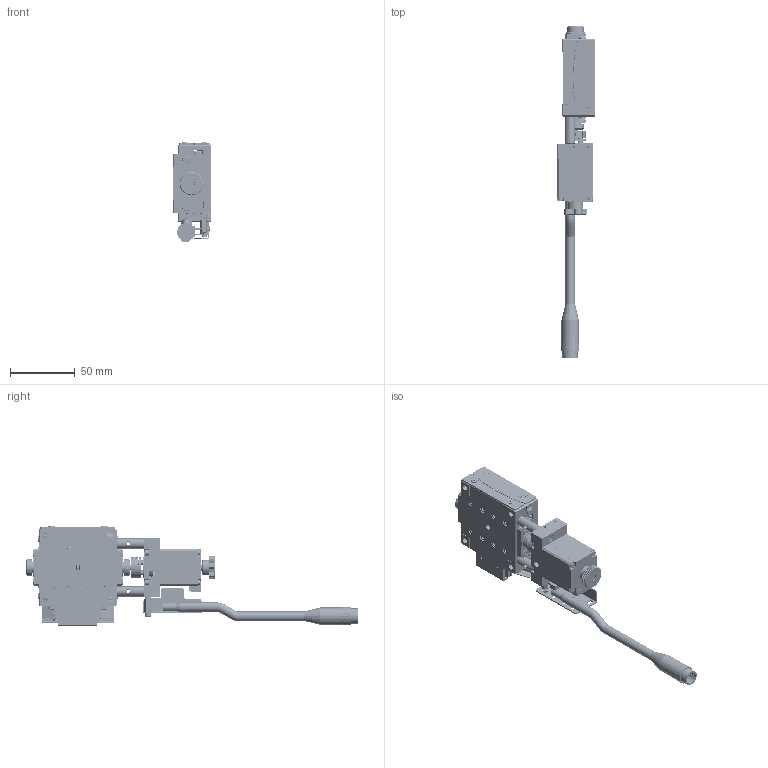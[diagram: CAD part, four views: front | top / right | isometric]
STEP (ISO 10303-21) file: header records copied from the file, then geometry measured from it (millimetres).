
FILE_DESCRIPTION (( 'STEP AP203' ), '1' );
FILE_NAME ('PT-GD06100-LC.STEP', '2026-03-30T08:28:01', ( '' ), ( '' ), 'SwSTEP 2.0', 'SolidWorks 2025', '' );
FILE_SCHEMA (( 'CONFIG_CONTROL_DESIGN' ));
Length unit declared in the file: millimetre
Products named in the file (50): PCBA-SHXL 2405 2.0.STEP_默认<按加工>; DGB-6075-15A-II.STEP_默认<按加工>; __________M2.5_M2.5__10+4SUS304.STEP_默认<按加工>; __________M2.5(__2.7__4.2__9.6)________.STEP_默认<按加工>; ________________M2.5_M2.5__12________12.9__.STEP_默认<按加工>; ____1__0.75-D10.STEP_默认<按加工>; CNT13-Z12Z-001-0.31M.STEP_默认<按加工>; M2.5_______M2.5__5__0.3SUS304____.STEP_默认<按加工>; ____CM__________M2_M2__4-______4.0__0.71________.STEP_默认<按加工>; ____292__0.75.STEP_默认<按加工>; SL18-9.5-5.STEP_默认<按加工>; A-G60L____________.STEP; __________________M3_M3__4________12.9__.STEP_默认<按加工>; PKP523N12B_________________10__10.STEP_默认<按加工>; __________________M3_M3__3________12.9__.STEP_默认<按加工>; DGB-6075-08A.STEP_默认<按加工>; HGW6050-03A.STEP_默认<按加工>; __________________M2.5_M2.5__3________12.9__.STEP_默认<按加工>; DGB-6075-06B.STEP_默认<按加工>; M5X0.5-13L5.STEP_默认<按加工>; ________________M2_M2__8________12.9__.STEP_默认<按加工>; 60-113.5.STEP_默认<按加工>; CS-16__17-4__5.STEP_默认<按加工>; DGB-6075-21B.STEP_默认<按加工>; HGW60100-01A.STEP_默认<按加工>; PCBA-SA2-V1.0.STEP_默认<按加工>; DGW60100-03B.STEP_默认<按加工>; ZCZ8-21.STEP_默认<按加工>; DGW60100-DL.STEP; PT-GD06100-LC; M2.5_______M2.5__5__0.5SUS304____.STEP_默认<按加工>; HGW60100-02A.STEP_默认<按加工>; ________________M2_M2__4________12.9__.STEP_默认<按加工>; A-______________DGW60100-L______6__.STEP; ________________M2.5_M2.5__10________12.9__.STEP_默认<按加工>; DGB-6075-LPD-NC______-L.STEP; ________________M2.5_M2.5__5________12.9__.STEP_默认<按加工>; ________________M3_M3__7________12.9__.STEP_默认<按加工>; DGB-60100-05B.STEP_默认<按加工>; DGW60100-02A.STEP_默认<按加工>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
Assembly tree (129 placements, depth 4):
  PT-GD06100-LC
    DGW60100-DL.STEP
      A-DGW60100-L__________.STEP
        HGW60100-01A.STEP_默认<按加工>
        HGW60100-02A.STEP_默认<按加工>
        __________________M3_M3__4________12.9__.STEP_默认<按加工>  x4
        ________________M2.5_M2.5__12________12.9__.STEP_默认<按加工>  x4
        ________________M2.5_M2.5__10________12.9__.STEP_默认<按加工>  x12
        M2.5_______M2.5__5__0.5SUS304____.STEP_默认<按加工>  x8
        60-113.5.STEP_默认<按加工>  x4
        ____CM__________M2_M2__3-______5.0____1.2SUS304____.STEP_默认<按加工>  x8
        ____292__0.75.STEP_默认<按加工>
        ________________M2.5_M2.5__6________12.9__.STEP_默认<按加工>  x4
        ______VR2-___________VR2x10Z-113.5.STEP_默认<按加工>  x2
        DGB-60100-04B.STEP_默认<按加工>
        DGB-60100-05B.STEP_默认<按加工>
        ____CM__________M2_M2__4-______4.0__0.71________.STEP_默认<按加工>  x4
      A-DGW60______L__PKP523N12B.STEP
        F695ZZ-____13____5__4______1-NSK.STEP_默认<按加工>  x2
        M5X0.5-13L5.STEP_默认<按加工>  x2
        HGW6050-03A.STEP_默认<按加工>  x2
        __________________M2.5_M2.5__3________12.9__.STEP_默认<按加工>  x4
        ________________M3_M3__7________12.9__.STEP_默认<按加工>  x4
        ____1__0.75-D10.STEP_默认<按加工>
        DGB-6075-15A-II.STEP_默认<按加工>
        ZCZ8-21.STEP_默认<按加工>  x2
        CS-16__17-4__5.STEP_默认<按加工>
        ________________M2.5_M2.5__12________12.9__.STEP_默认<按加工>  x4
        ________________M3_M3__5________12.9__.STEP_默认<按加工>  x2
        PKP523N12B_________________10__10.STEP_默认<按加工>
        SL18-9.5-5.STEP_默认<按加工>
        __________________M3_M3__3________12.9__.STEP_默认<按加工>
        M2.5_______M2.5__5__0.5SUS304____.STEP_默认<按加工>  x4
        __________M2.5(__2.7__4.2__9.6)________.STEP_默认<按加工>
      A-______________DGW60100-L______6__.STEP
        DGB-6075-08A.STEP_默认<按加工>
        DGW60100-04B.STEP_默认<按加工>  x2
        DGW60100-03B.STEP_默认<按加工>
        ________________M2_M2__4________12.9__.STEP_默认<按加工>  x3
        DGB-6075-06B.STEP_默认<按加工>
        ________________M2_M2__8________12.9__.STEP_默认<按加工>  x2
        ____CM__________M2_M2__4-______4.0__0.71________.STEP_默认<按加工>  x2
      A-G60L____________.STEP
        DGW60100-02A.STEP_默认<按加工>
        PCBA-SA2-V1.0.STEP_默认<按加工>
        ____CM__________M2_M2__4-______4.0__0.71________.STEP_默认<按加工>  x4
        ________2.1__3.3__0.2-304_______2.1__3.3__0.2-304______.STEP_默认<按加工>  x2
      DGB-6075-LPD-NC______-L.STEP
        CNT13-Z12Z-001-0.31M.STEP_默认<按加工>
        DGB-6075-21B.STEP_默认<按加工>
        M2.5_______M2.5__5__0.3SUS304____.STEP_默认<按加工>  x2
        PCBA-SHXL 2405 2.0.STEP_默认<按加工>
        __________M2.5_M2.5__10+4SUS304.STEP_默认<按加工>  x2
        ________________M2.5_M2.5__5________12.9__.STEP_默认<按加工>  x2
      DGB-60100-04B.STEP_默认<按加工>
      DGB-60100-05B.STEP_默认<按加工>
      ____CM__________M2_M2__4-______4.0__0.71________.STEP_默认<按加工>  x4
Bounding box: 29 x 256.12 x 76.51 mm (x, y, z)
Volume: 144029 mm3; surface area: 97086.7 mm2
Topology: 149 solids, 168 shells, 5605 faces, 14248 edges, 9133 vertices
Faces by surface type: plane 2844, cylinder 1282, cone 577, bspline 558, torus 308, sphere 36
Entity records: 164561 total; most frequent: CARTESIAN_POINT 73363, ORIENTED_EDGE 18312, DIRECTION 15584, EDGE_CURVE 9158, VERTEX_POINT 5992, AXIS2_PLACEMENT_3D 5279, VECTOR 5026, LINE 5026
